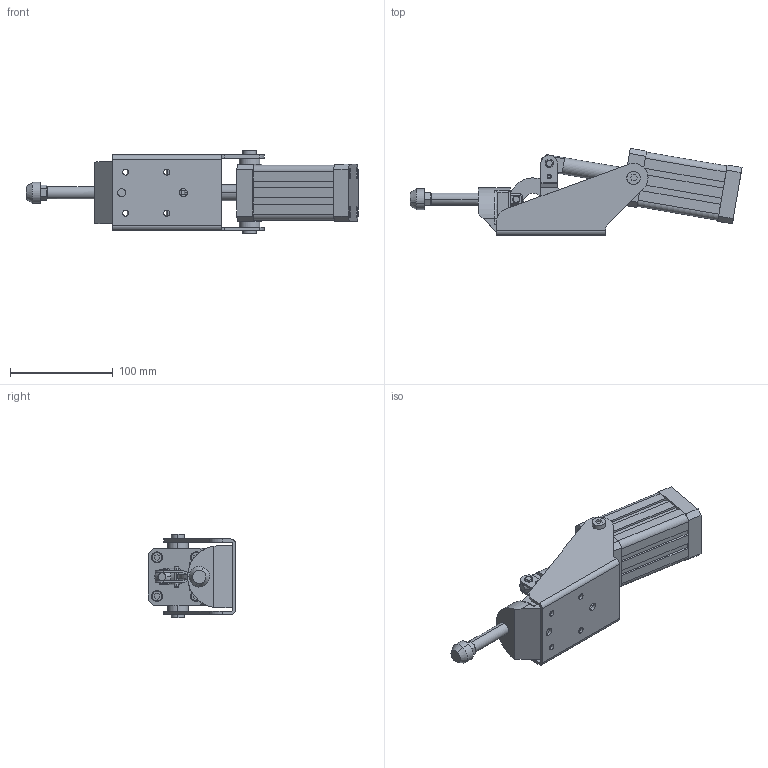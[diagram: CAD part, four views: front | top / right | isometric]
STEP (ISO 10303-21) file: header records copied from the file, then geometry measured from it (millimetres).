
FILE_DESCRIPTION (( 'STEP AP214' ), '1' );
FILE_NAME ('650-3 Montaj.STEP', '2017-06-08T13:30:12', ( '' ), ( '' ), 'SwSTEP 2.0', 'SolidWorks 2015', '' );
FILE_SCHEMA (( 'AUTOMOTIVE_DESIGN' ));
Length unit declared in the file: millimetre
Products named in the file (14): 650-3-13 civata; 650-3-12 percin; 650-3-11 halka; 650-3-9 civata; 650-3-10 lastik; 650-3-8 somun; 650-3-7; 650-3-1 mil; 650-3-4 tirnak; 650-3-6 lama; 650-3-2 mil; 650-3-5 dokum; 650-3-3 tabla; 650-3 Montaj
Assembly tree (14 placements, depth 2):
  650-3 Montaj
    650-3-3 tabla
    650-3-5 dokum
    650-3-2 mil
    650-3-6 lama
    650-3-4 tirnak
    650-3-1 mil
    650-3-7
    650-3-8 somun
    650-3-10 lastik
    650-3-9 civata
    650-3-11 halka  x2
    650-3-12 percin
    650-3-13 civata
Bounding box: 322.61 x 84.66 x 81 mm (x, y, z)
Volume: 494462.7 mm3; surface area: 128999.4 mm2
Topology: 14 solids, 14 shells, 637 faces, 1618 edges, 1074 vertices
Faces by surface type: plane 347, cylinder 190, bspline 82, cone 13, torus 5
Entity records: 24853 total; most frequent: CARTESIAN_POINT 7930, ORIENTED_EDGE 3212, DIRECTION 2971, EDGE_CURVE 1606, VERTEX_POINT 1066, VECTOR 1001, LINE 1001, AXIS2_PLACEMENT_3D 985
